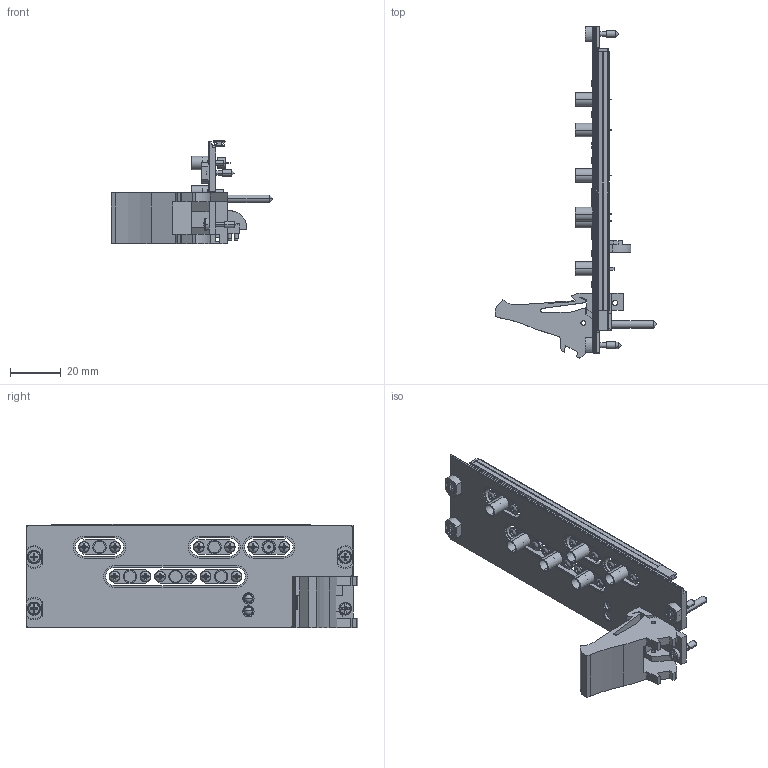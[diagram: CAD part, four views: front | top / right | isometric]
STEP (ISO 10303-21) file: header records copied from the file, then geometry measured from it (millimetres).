
FILE_DESCRIPTION((''),'2;1');
FILE_NAME('CU_PXI-5610','2009-12-31T',('jjorden'),(''),'PRO/ENGINEER BY PARAMETRIC TECHNOLOGY CORPORATION, 2006080','PRO/ENGINEER BY PARAMETRIC TECHNOLOGY CORPORATION, 2006080','');
FILE_SCHEMA(('CONFIG_CONTROL_DESIGN'));
Length unit declared in the file: inch
Products named in the file (1): CU_PXI-5610
Bounding box: 63.53 x 130.5 x 40.63 mm (x, y, z)
Volume: 22736.4 mm3; surface area: 24817.9 mm2
Topology: 10 solids, 10 shells, 1315 faces, 3346 edges, 1890 vertices
Faces by surface type: plane 696, cylinder 281, bspline 240, sphere 36, torus 32, cone 30
Entity records: 42658 total; most frequent: CARTESIAN_POINT 13126, ORIENTED_EDGE 6188, DIRECTION 5750, EDGE_CURVE 3094, VERTEX_POINT 2118, AXIS2_PLACEMENT_3D 2030, VECTOR 1690, LINE 1690
